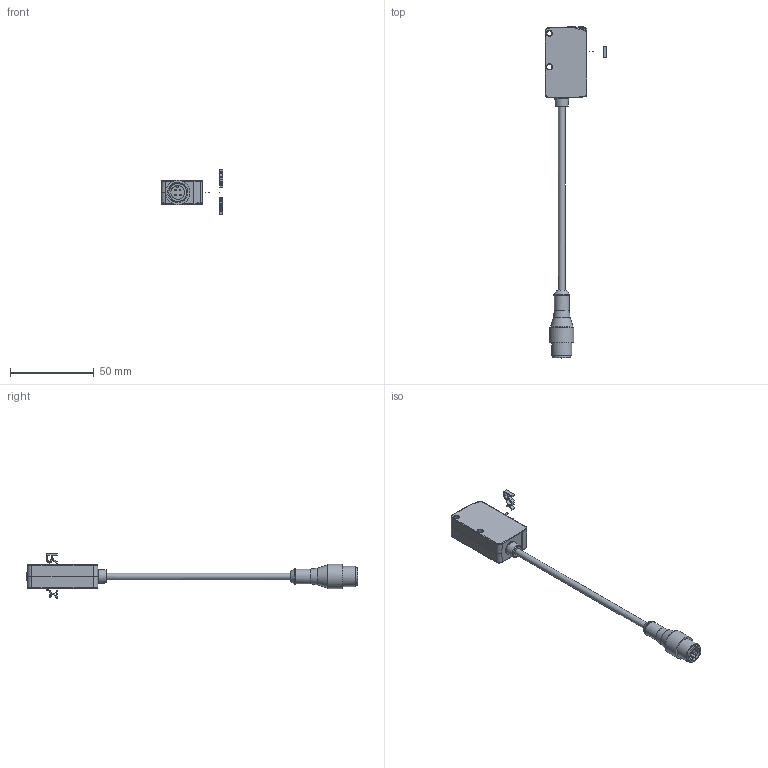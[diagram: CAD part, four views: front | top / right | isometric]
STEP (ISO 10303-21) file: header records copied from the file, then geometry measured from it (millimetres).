
FILE_DESCRIPTION(/* description */ (''),/* implementation_level */ '2;1');
FILE_NAME(/* name */ 'DSD-0194.stp',/* time_stamp */ '2020-09-22T11:50:41+02:00',/* author */ (''),/* organization */ (''),/* preprocessor_version */ 'ST-DEVELOPER v16.7',/* originating_system */ 'SIEMENS PLM Software NX 12.0',/* authorisation */ '');
FILE_SCHEMA (('AUTOMOTIVE_DESIGN { 1 0 10303 214 3 1 1 1 }'));
Length unit declared in the file: millimetre
Products named in the file (1): MBra20D017FA1tzv
Bounding box: 37 x 198.3 x 26.68 mm (x, y, z)
Volume: 18822 mm3; surface area: 8980.2 mm2
Topology: 7 solids, 11 shells, 523 faces, 1287 edges, 803 vertices
Faces by surface type: bspline 429, cylinder 34, plane 31, torus 21, sphere 6, cone 2
Full cylindrical faces by diameter (mm): 0.8 x1, 1.4 x2, 2.85 x1, 2.95 x1, 3.85 x1
Entity records: 21237 total; most frequent: CARTESIAN_POINT 9681, ORIENTED_EDGE 2409, EDGE_CURVE 1207, VERTEX_POINT 789, B_SPLINE_CURVE_WITH_KNOTS 693, EDGE_LOOP 609, DIRECTION 561, ADVANCED_FACE 522
